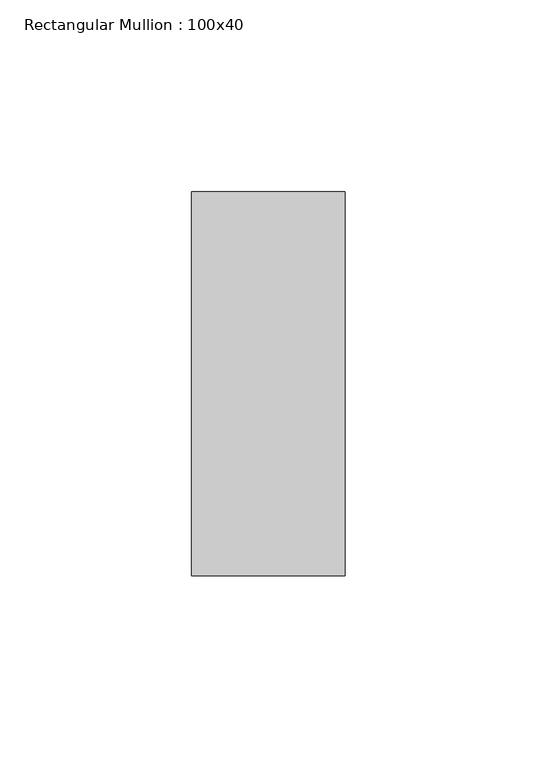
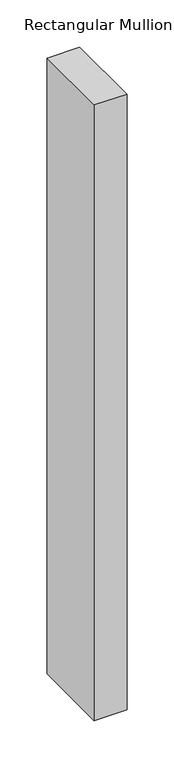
"""IFC4 building model written with IfcOpenShell, lengths in millimetres: member geometry, Rectangular Mullion : 100x40."""

from ifc_helpers import new_model, si_unit, frame, origin, place, context, project, spatial, polyline, outline, extrude, source, transform, mapped, element, save


def rectangular_mullion_100x40_46924800(model_context):
    return source(origin(), model_context, "Body", "SweptSolid", [
        extrude(outline(polyline([(20.0, 50.0), (20.0, -50.0), (-20.0, -50.0), (-20.0, 50.0), (20.0, 50.0)])), frame((0.0, 0.0, -796.6666667), z_axis=(0.0, 0.0, 1.0), x_axis=(1.0, 0.0, 0.0)), (0.0, 0.0, 1.0), 796.6666667),
    ])


if __name__ == "__main__":
    model = new_model("IFC4")
    model_context = context("Model", 3, world=origin())
    ifc_project = project(units=[si_unit("LENGTHUNIT", "METRE", prefix="MILLI")], contexts=[model_context])
    site = spatial("IfcSite", under=ifc_project)
    building = spatial("IfcBuilding", under=site)
    placement = place(None, origin())
    rectangular_mullion_100x40_shape = rectangular_mullion_100x40_46924800(model_context)
    element("IfcMember", 1, ObjectType="Rectangular Mullion : 100x40", at=placement, inside=building, context=model_context, shape_type="MappedRepresentation", body=[
        mapped(rectangular_mullion_100x40_shape, transform((0.0, 0.0, 0.0), x_axis=(1.0, 0.0, 0.0), y_axis=(0.0, 1.0, 0.0), z_axis=(0.0, 0.0, 1.0))),
    ])
    save(model, "model.ifc")
